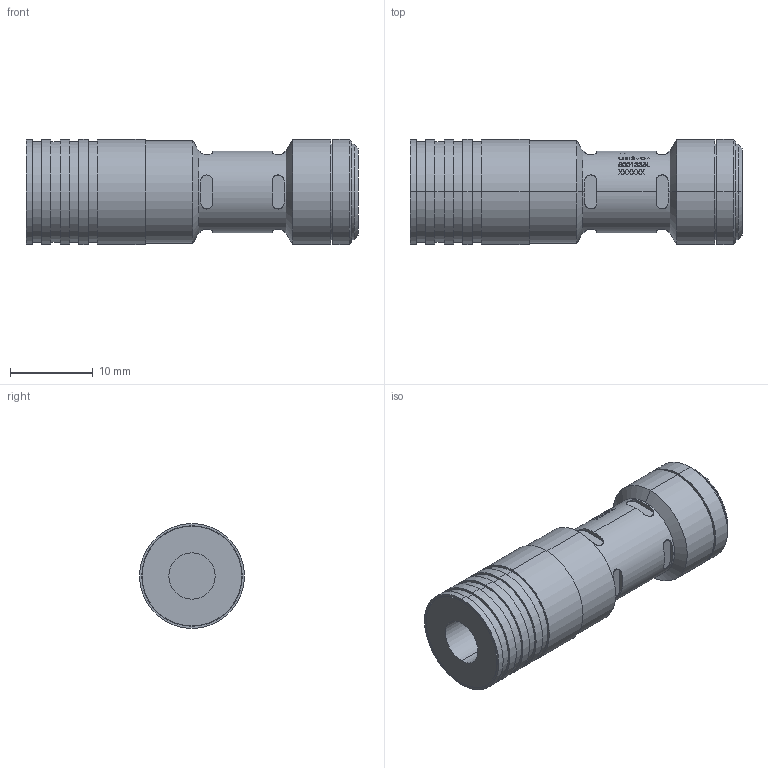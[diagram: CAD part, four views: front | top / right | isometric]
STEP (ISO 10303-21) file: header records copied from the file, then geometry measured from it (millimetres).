
FILE_DESCRIPTION (( 'STEP AP214' ), '1' );
FILE_NAME ('3DSVDA5001335L.STEP', '2021-04-01T15:15:29', ( '' ), ( '' ), 'SwSTEP 2.0', 'SolidWorks 2019', '' );
FILE_SCHEMA (( 'AUTOMOTIVE_DESIGN' ));
Length unit declared in the file: inch
Products named in the file (1): 3DSVDA5001335L
Bounding box: 40.13 x 12.7 x 12.7 mm (x, y, z)
Volume: 4159.4 mm3; surface area: 2103.7 mm2
Topology: 1 solids, 1 shells, 397 faces, 1036 edges, 686 vertices
Faces by surface type: bspline 165, plane 141, cylinder 77, cone 14
Entity records: 16308 total; most frequent: CARTESIAN_POINT 7951, ORIENTED_EDGE 2072, DIRECTION 1104, EDGE_CURVE 1036, VERTEX_POINT 686, B_SPLINE_CURVE_WITH_KNOTS 568, EDGE_LOOP 442, AXIS2_PLACEMENT_3D 403
